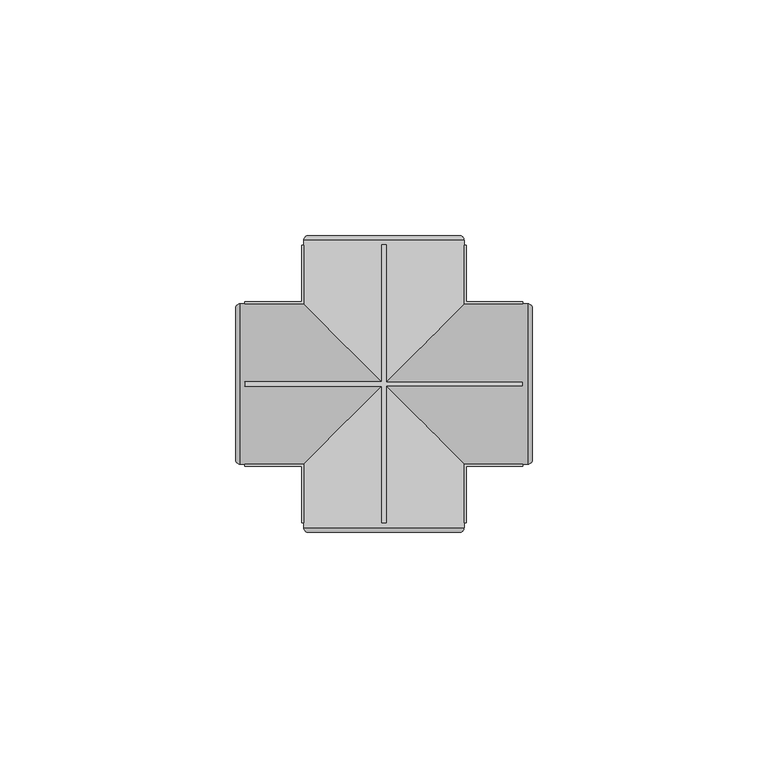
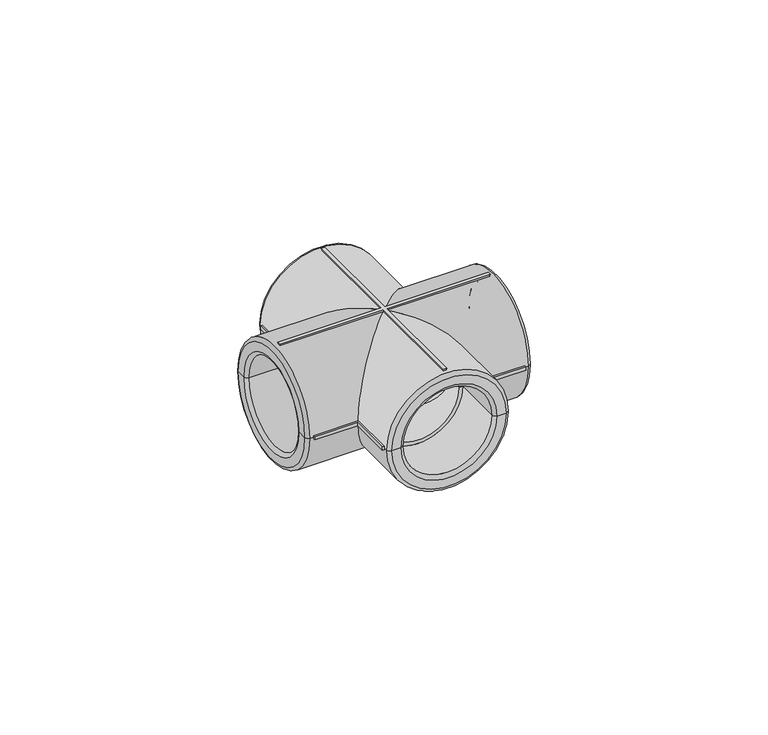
"""IFC4 building model written with IfcOpenShell, lengths in millimetres: pipe fitting geometry, EGB_VASEN_ PPR_Cruz WXR400 : EGB_VASEN_ PPR_Cruz WXR400."""

from ifc_helpers import new_model, si_unit, point, frame, origin, place, context, project, spatial, polyline, circle_curve, ellipse_curve, trimmed, source, transform, mapped, element, save
from ifc_brep_helpers import plane_surface, cylinder_surface, revolved_surface, advanced_brep


def pipe_fitting_9f84b60b(model_context):
    return source(origin(), model_context, "Body", "AdvancedBrep", [
        advanced_brep(
        [(-17.5, -29.5, 0.5), (-17.5, -29.5, -0.5), (-16.9926455, -29.5, -0.5), (-17.0, -29.5, 0.0), (-16.9926455, -29.5, 0.5), (17.5, -29.5, -0.5), (17.5, -29.5, 0.5), (16.9926455, -29.5, 0.5), (17.0, -29.5, 0.0), (16.9926455, -29.5, -0.5), (17.5, 29.5, 0.5), (17.5, 29.5, -0.5), (16.9926455, 29.5, -0.5), (17.0, 29.5, 0.0), (16.9926455, 29.5, 0.5), (-17.5, 29.5, -0.5), (-17.5, 29.5, 0.5), (-16.9926455, 29.5, 0.5), (-17.0, 29.5, 0.0), (-16.9926455, 29.5, -0.5), (17.5, -17.5, -0.5), (17.5, -17.5, 0.5), (17.5, 17.5, 0.5), (17.5, 17.5, -0.5), (16.9926455, -16.9926455, -0.5), (29.5, -16.9926455, -0.5), (29.5, -17.5, -0.5), (29.5, 17.5, -0.5), (29.5, 16.9926455, -0.5), (16.9926455, 16.9926455, -0.5), (-17.5, -17.5, -0.5), (-29.5, -17.5, -0.5), (-29.5, -16.9926455, -0.5), (-16.9926455, -16.9926455, -0.5), (-17.5, 17.5, -0.5), (-16.9926455, 16.9926455, -0.5), (-29.5, 16.9926455, -0.5), (-29.5, 17.5, -0.5), (-17.5, -17.5, 0.5), (-17.5, 17.5, 0.5), (29.5, -17.5, 0.5), (29.5, -16.9926455, 0.5), (16.9926455, -16.9926455, 0.5), (16.9926455, 16.9926455, 0.5), (29.5, 16.9926455, 0.5), (29.5, 17.5, 0.5), (-16.9926455, -16.9926455, 0.5), (-29.5, -16.9926455, 0.5), (-29.5, -17.5, 0.5), (-29.5, 17.5, 0.5), (-29.5, 16.9926455, 0.5), (-16.9926455, 16.9926455, 0.5), (29.5, -17.0, 0.0), (29.5, 17.0, 0.0), (-29.5, 17.0, 0.0), (-29.5, -17.0, 0.0), (-15.9999999, 31.5, 0.0), (-13.5, 31.5, 0.0), (13.5, 31.5, 0.0), (16.0, 31.5, 0.0), (17.0, -30.5000009, 0.0), (-17.0, -30.5, 0.0), (-0.5, -0.5, -16.9926455), (-0.5, -29.5, -16.9926455), (0.5, -29.5, -16.9926455), (0.5, -0.5, -16.9926455), (-17.0, 30.5, 0.0), (17.0, 30.5, 0.0), (0.5, 0.5, -16.9926455), (0.5, 29.5, -16.9926455), (-0.5, 29.5, -16.9926455), (-0.5, 0.5, -16.9926455), (0.5, -0.5, 16.9926455), (0.5, -29.5, 16.9926455), (-0.5, -29.5, 16.9926455), (-0.5, -0.5, 16.9926455), (-0.5, 0.5, 16.9926455), (-0.5, 29.5, 16.9926455), (0.5, 29.5, 16.9926455), (0.5, 0.5, 16.9926455), (16.0, -31.5, 0.0), (13.5, -31.5, 0.0), (-13.5, -31.5, 0.0), (-16.0, -31.5, 0.0), (30.5, 17.0, 0.0), (30.5, -17.0, 0.0), (29.5, -0.5, -16.9926455), (29.5, 0.5, -16.9926455), (-29.5, 0.5, -16.9926455), (-29.5, -0.5, -16.9926455), (-30.5000009, -17.0, 0.0), (-30.5, 17.0, 0.0), (29.5, 0.5, 16.9926455), (29.5, -0.5, 16.9926455), (-29.5, -0.5, 16.9926455), (-29.5, 0.5, 16.9926455), (-31.5, -16.0, 0.0), (-31.5, -13.5, 0.0), (-31.5, 13.5, 0.0), (-31.5, 16.0, 0.0), (31.5, 15.9999999, 0.0), (31.5, 13.5, 0.0), (31.5, -13.5, 0.0), (31.5, -16.0, 0.0), (29.5, 0.5, 17.5), (29.5, -0.5, 17.5), (29.5, -0.5, -17.5), (29.5, 0.5, -17.5), (-29.5, 0.5, -17.5), (-29.5, -0.5, -17.5), (-29.5, -0.5, 17.5), (-29.5, 0.5, 17.5), (0.5, 0.5, 17.5), (0.5, 29.5, 17.5), (-0.5, 29.5, 17.5), (-0.5, 0.5, 17.5), (-0.5, -0.5, 17.5), (-0.5, -29.5, 17.5), (0.5, -29.5, 17.5), (0.5, -0.5, 17.5), (0.5, -0.5, -17.5), (-0.5, -0.5, -17.5), (0.5, -29.5, -17.5), (-0.5, -29.5, -17.5), (-0.5, 0.5, -17.5), (-0.5, 29.5, -17.5), (0.5, 29.5, -17.5), (0.5, 0.5, -17.5), (12.5, -16.5, 0.0), (11.5, -16.5, 0.0), (-11.5, -16.5, 0.0), (-12.5, -16.5, 0.0), (-12.5, -30.5, 0.0), (12.5, -30.5, 0.0), (12.5, 30.5, 0.0), (-12.5, 30.5, 0.0), (-12.5, 16.5, 0.0), (12.5, 16.5, 0.0), (-11.5, 16.5, 0.0), (11.5, 16.5, 0.0), (11.5, -11.5, 0.0), (0.0, 0.0, -11.5), (-11.5, -11.5, 0.0), (-11.5, 11.5, 0.0), (11.5, 11.5, 0.0), (0.0, 0.0, 11.5), (30.5, -12.5, 0.0), (30.5, 12.5, 0.0), (16.5, 12.5, 0.0), (16.5, -12.5, 0.0), (16.5, 11.5, 0.0), (16.5, -11.5, 0.0), (-16.5, 11.5, 0.0), (-16.5, -11.5, 0.0), (-16.5, 12.5, 0.0), (-16.5, -12.5, 0.0), (-30.5, 12.5, 0.0), (-30.5, -12.5, 0.0)],
        [
            (0, 1),
            (1, 2),
            (2, 3, circle_curve(frame((0.0, -29.5, 0.0), z_axis=(0.0, 1.0, 0.0), x_axis=(-1.0, 0.0, 0.0)), 17.0)),
            (3, 4, circle_curve(frame((0.0, -29.5, 0.0), z_axis=(0.0, 1.0, 0.0), x_axis=(-1.0, 0.0, 0.0)), 17.0)),
            (4, 0),
            (5, 6),
            (6, 7),
            (7, 8, circle_curve(frame((0.0, -29.5, 0.0), z_axis=(0.0, 1.0, 0.0), x_axis=(-1.0, 0.0, 0.0)), 17.0)),
            (8, 9, circle_curve(frame((0.0, -29.5, 0.0), z_axis=(0.0, 1.0, 0.0), x_axis=(-1.0, 0.0, 0.0)), 17.0)),
            (9, 5),
            (10, 11),
            (11, 12),
            (12, 13, circle_curve(frame((0.0, 29.5, 0.0), z_axis=(0.0, -1.0, 0.0), x_axis=(-1.0, 0.0, 0.0)), 17.0)),
            (13, 14, circle_curve(frame((0.0, 29.5, 0.0), z_axis=(0.0, -1.0, 0.0), x_axis=(-1.0, 0.0, 0.0)), 17.0)),
            (14, 10),
            (15, 16),
            (16, 17),
            (17, 18, circle_curve(frame((0.0, 29.5, 0.0), z_axis=(0.0, -1.0, 0.0), x_axis=(-1.0, 0.0, 0.0)), 17.0)),
            (18, 19, circle_curve(frame((0.0, 29.5, 0.0), z_axis=(0.0, -1.0, 0.0), x_axis=(-1.0, 0.0, 0.0)), 17.0)),
            (19, 15),
            (5, 20),
            (20, 21),
            (21, 6),
            (10, 22),
            (22, 23),
            (23, 11),
            (9, 24),
            (24, 25),
            (25, 26),
            (26, 20),
            (23, 27),
            (27, 28),
            (28, 29),
            (29, 12),
            (1, 30),
            (30, 31),
            (31, 32),
            (32, 33),
            (33, 2),
            (34, 15),
            (19, 35),
            (35, 36),
            (36, 37),
            (37, 34),
            (0, 38),
            (38, 30),
            (34, 39),
            (39, 16),
            (21, 40),
            (40, 41),
            (41, 42),
            (42, 7),
            (14, 43),
            (43, 44),
            (44, 45),
            (45, 22),
            (4, 46),
            (46, 47),
            (47, 48),
            (48, 38),
            (39, 49),
            (49, 50),
            (50, 51),
            (51, 17),
            (40, 26),
            (25, 52, circle_curve(frame((29.5, 0.0, 0.0), z_axis=(-1.0, 0.0, 0.0), x_axis=(0.0, 1.0, 0.0)), 17.0)),
            (52, 41, circle_curve(frame((29.5, 0.0, 0.0), z_axis=(-1.0, 0.0, 0.0), x_axis=(0.0, 1.0, 0.0)), 17.0)),
            (27, 45),
            (44, 53, circle_curve(frame((29.5, 0.0, 0.0), z_axis=(-1.0, 0.0, 0.0), x_axis=(0.0, 1.0, 0.0)), 17.0)),
            (53, 28, circle_curve(frame((29.5, 0.0, 0.0), z_axis=(-1.0, 0.0, 0.0), x_axis=(0.0, 1.0, 0.0)), 17.0)),
            (49, 37),
            (36, 54, circle_curve(frame((-29.5, 0.0, 0.0), z_axis=(1.0, 0.0, 0.0), x_axis=(0.0, 1.0, 0.0)), 17.0)),
            (54, 50, circle_curve(frame((-29.5, 0.0, 0.0), z_axis=(1.0, 0.0, 0.0), x_axis=(0.0, 1.0, 0.0)), 17.0)),
            (31, 48),
            (47, 55, circle_curve(frame((-29.5, 0.0, 0.0), z_axis=(1.0, 0.0, 0.0), x_axis=(0.0, 1.0, 0.0)), 17.0)),
            (55, 32, circle_curve(frame((-29.5, 0.0, 0.0), z_axis=(1.0, 0.0, 0.0), x_axis=(0.0, 1.0, 0.0)), 17.0)),
            (56, 57),
            (57, 58, circle_curve(frame((0.0, 31.5, 0.0), z_axis=(0.0, -1.0, 0.0), x_axis=(-1.0, 0.0, 0.0)), 13.5)),
            (58, 59),
            (59, 56, circle_curve(frame((0.0, 31.5, 0.0), z_axis=(0.0, 1.0, 0.0), x_axis=(-1.0, 0.0, 0.0)), 16.0)),
            (56, 59, circle_curve(frame((0.0, 31.5, 0.0), z_axis=(0.0, 1.0, 0.0), x_axis=(-1.0, 0.0, 0.0)), 16.0)),
            (58, 57, circle_curve(frame((0.0, 31.5, 0.0), z_axis=(0.0, -1.0, 0.0), x_axis=(-1.0, 0.0, 0.0)), 13.5)),
            (8, 60),
            (60, 61, circle_curve(frame((0.0, -30.5, 0.0), z_axis=(0.0, 1.0, 0.0), x_axis=(-1.0, 0.0, 0.0)), 17.0)),
            (61, 3),
            (33, 62, ellipse_curve(frame((0.0, 0.0, 0.0), z_axis=(0.7071067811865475, -0.7071067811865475, 0.0), x_axis=(-0.7071067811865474, -0.7071067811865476, 0.0)), 24.0416306, 17.0)),
            (62, 63),
            (63, 64, circle_curve(frame((0.0, -29.5, 0.0), z_axis=(0.0, -1.0, 0.0), x_axis=(-1.0, 0.0, 0.0)), 17.0)),
            (64, 65),
            (65, 24, ellipse_curve(frame((0.0, 0.0, 0.0), z_axis=(-0.7071067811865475, -0.7071067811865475, 0.0), x_axis=(0.7071067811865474, -0.7071067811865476, 0.0)), 24.0416306, 17.0)),
            (18, 66),
            (66, 67, circle_curve(frame((0.0, 30.5, 0.0), z_axis=(0.0, -1.0, 0.0), x_axis=(-1.0, 0.0, 0.0)), 17.0)),
            (67, 13),
            (29, 68, ellipse_curve(frame((0.0, 0.0, 0.0), z_axis=(-0.7071067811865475, 0.7071067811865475, 0.0), x_axis=(-0.7071067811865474, -0.7071067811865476, 0.0)), 24.0416306, 17.0)),
            (68, 69),
            (69, 70, circle_curve(frame((0.0, 29.5, 0.0), z_axis=(0.0, 1.0, 0.0), x_axis=(-1.0, 0.0, 0.0)), 17.0)),
            (70, 71),
            (71, 35, ellipse_curve(frame((0.0, 0.0, 0.0), z_axis=(0.7071067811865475, 0.7071067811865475, 0.0), x_axis=(0.7071067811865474, -0.7071067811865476, 0.0)), 24.0416306, 17.0)),
            (61, 60, circle_curve(frame((0.0, -30.5, 0.0), z_axis=(0.0, 1.0, 0.0), x_axis=(-1.0, 0.0, 0.0)), 17.0)),
            (42, 72, ellipse_curve(frame((0.0, 0.0, 0.0), z_axis=(-0.7071067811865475, -0.7071067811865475, 0.0), x_axis=(0.7071067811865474, -0.7071067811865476, 0.0)), 24.0416306, 17.0)),
            (72, 73),
            (73, 74, circle_curve(frame((0.0, -29.5, 0.0), z_axis=(0.0, -1.0, 0.0), x_axis=(-1.0, 0.0, 0.0)), 17.0)),
            (74, 75),
            (75, 46, ellipse_curve(frame((0.0, 0.0, 0.0), z_axis=(0.7071067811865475, -0.7071067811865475, 0.0), x_axis=(-0.7071067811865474, -0.7071067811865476, 0.0)), 24.0416306, 17.0)),
            (67, 66, circle_curve(frame((0.0, 30.5, 0.0), z_axis=(0.0, -1.0, 0.0), x_axis=(-1.0, 0.0, 0.0)), 17.0)),
            (51, 76, ellipse_curve(frame((0.0, 0.0, 0.0), z_axis=(0.7071067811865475, 0.7071067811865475, 0.0), x_axis=(0.7071067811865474, -0.7071067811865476, 0.0)), 24.0416306, 17.0)),
            (76, 77),
            (77, 78, circle_curve(frame((0.0, 29.5, 0.0), z_axis=(0.0, 1.0, 0.0), x_axis=(-1.0, 0.0, 0.0)), 17.0)),
            (78, 79),
            (79, 43, ellipse_curve(frame((0.0, 0.0, 0.0), z_axis=(-0.7071067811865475, 0.7071067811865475, 0.0), x_axis=(-0.7071067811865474, -0.7071067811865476, 0.0)), 24.0416306, 17.0)),
            (80, 81),
            (81, 82, circle_curve(frame((0.0, -31.5, 0.0), z_axis=(0.0, 1.0, 0.0), x_axis=(-1.0, 0.0, 0.0)), 13.5)),
            (82, 83),
            (83, 80, circle_curve(frame((0.0, -31.5, 0.0), z_axis=(0.0, -1.0, 0.0), x_axis=(-1.0, 0.0, 0.0)), 16.0)),
            (80, 83, circle_curve(frame((0.0, -31.5, 0.0), z_axis=(0.0, -1.0, 0.0), x_axis=(-1.0, 0.0, 0.0)), 16.0)),
            (82, 81, circle_curve(frame((0.0, -31.5, 0.0), z_axis=(0.0, 1.0, 0.0), x_axis=(-1.0, 0.0, 0.0)), 13.5)),
            (53, 84),
            (84, 85, circle_curve(frame((30.5, 0.0, 0.0), z_axis=(-1.0, 0.0, 0.0), x_axis=(0.0, 1.0, 0.0)), 17.0)),
            (85, 52),
            (65, 86),
            (86, 87, circle_curve(frame((29.5, 0.0, 0.0), z_axis=(1.0, 0.0, 0.0), x_axis=(0.0, 1.0, 0.0)), 17.0)),
            (87, 68),
            (71, 88),
            (88, 89, circle_curve(frame((-29.5, 0.0, 0.0), z_axis=(-1.0, 0.0, 0.0), x_axis=(0.0, 1.0, 0.0)), 17.0)),
            (89, 62),
            (55, 90),
            (90, 91, circle_curve(frame((-30.5, 0.0, 0.0), z_axis=(1.0, 0.0, 0.0), x_axis=(0.0, 1.0, 0.0)), 17.0)),
            (91, 54),
            (79, 92),
            (92, 93, circle_curve(frame((29.5, 0.0, 0.0), z_axis=(1.0, 0.0, 0.0), x_axis=(0.0, 1.0, 0.0)), 17.0)),
            (93, 72),
            (85, 84, circle_curve(frame((30.5, 0.0, 0.0), z_axis=(-1.0, 0.0, 0.0), x_axis=(0.0, 1.0, 0.0)), 17.0)),
            (91, 90, circle_curve(frame((-30.5, 0.0, 0.0), z_axis=(1.0, 0.0, 0.0), x_axis=(0.0, 1.0, 0.0)), 17.0)),
            (75, 94),
            (94, 95, circle_curve(frame((-29.5, 0.0, 0.0), z_axis=(-1.0, 0.0, 0.0), x_axis=(0.0, 1.0, 0.0)), 17.0)),
            (95, 76),
            (96, 97),
            (97, 98, circle_curve(frame((-31.5, 0.0, 0.0), z_axis=(1.0, 0.0, 0.0), x_axis=(0.0, 1.0, 0.0)), 13.5)),
            (98, 99),
            (99, 96, circle_curve(frame((-31.5, 0.0, 0.0), z_axis=(-1.0, 0.0, 0.0), x_axis=(0.0, 1.0, 0.0)), 16.0)),
            (96, 99, circle_curve(frame((-31.5, 0.0, 0.0), z_axis=(-1.0, 0.0, 0.0), x_axis=(0.0, 1.0, 0.0)), 16.0)),
            (98, 97, circle_curve(frame((-31.5, 0.0, 0.0), z_axis=(1.0, 0.0, 0.0), x_axis=(0.0, 1.0, 0.0)), 13.5)),
            (100, 101),
            (101, 102, circle_curve(frame((31.5, 0.0, 0.0), z_axis=(-1.0, 0.0, 0.0), x_axis=(0.0, 1.0, 0.0)), 13.5)),
            (102, 103),
            (103, 100, circle_curve(frame((31.5, 0.0, 0.0), z_axis=(1.0, 0.0, 0.0), x_axis=(0.0, 1.0, 0.0)), 16.0)),
            (100, 103, circle_curve(frame((31.5, 0.0, 0.0), z_axis=(1.0, 0.0, 0.0), x_axis=(0.0, 1.0, 0.0)), 16.0)),
            (102, 101, circle_curve(frame((31.5, 0.0, 0.0), z_axis=(-1.0, 0.0, 0.0), x_axis=(0.0, 1.0, 0.0)), 13.5)),
            (104, 105),
            (105, 93),
            (92, 104),
            (106, 107),
            (107, 87),
            (86, 106),
            (108, 109),
            (109, 89),
            (88, 108),
            (110, 111),
            (111, 95),
            (94, 110),
            (104, 112),
            (112, 113),
            (113, 114),
            (114, 115),
            (115, 111),
            (110, 116),
            (116, 117),
            (117, 118),
            (118, 119),
            (119, 105),
            (119, 72),
            (65, 120),
            (120, 106),
            (109, 121),
            (121, 62),
            (75, 116),
            (120, 122),
            (122, 123),
            (123, 121),
            (108, 124),
            (124, 125),
            (125, 126),
            (126, 127),
            (127, 107),
            (79, 112),
            (127, 68),
            (71, 124),
            (115, 76),
            (117, 74),
            (73, 118),
            (122, 64),
            (63, 123),
            (113, 78),
            (77, 114),
            (125, 70),
            (69, 126),
            (128, 129),
            (129, 130, circle_curve(frame((0.0, -16.5, 0.0), z_axis=(0.0, 1.0, 0.0), x_axis=(-1.0, 0.0, 0.0)), 11.5)),
            (130, 131),
            (131, 128, circle_curve(frame((0.0, -16.5, 0.0), z_axis=(0.0, -1.0, 0.0), x_axis=(-1.0, 0.0, 0.0)), 12.5)),
            (128, 131, circle_curve(frame((0.0, -16.5, 0.0), z_axis=(0.0, -1.0, 0.0), x_axis=(-1.0, 0.0, 0.0)), 12.5)),
            (130, 129, circle_curve(frame((0.0, -16.5, 0.0), z_axis=(0.0, 1.0, 0.0), x_axis=(-1.0, 0.0, 0.0)), 11.5)),
            (131, 132),
            (132, 133, circle_curve(frame((0.0, -30.5, 0.0), z_axis=(0.0, -1.0, 0.0), x_axis=(-1.0, 0.0, 0.0)), 12.5)),
            (133, 128),
            (133, 132, circle_curve(frame((0.0, -30.5, 0.0), z_axis=(0.0, -1.0, 0.0), x_axis=(-1.0, 0.0, 0.0)), 12.5)),
            (132, 82, circle_curve(frame((-13.5, -30.5, 0.0), z_axis=(0.0, 0.0, -1.0), x_axis=(1.0, 0.0, 0.0)), 1.0)),
            (81, 133, circle_curve(frame((13.5, -30.5, 0.0), z_axis=(0.0, 0.0, -1.0), x_axis=(-1.0, 0.0, 0.0)), 1.0)),
            (134, 58, circle_curve(frame((13.5, 30.5, 0.0), z_axis=(0.0, 0.0, -1.0), x_axis=(-1.0, 0.0, 0.0)), 1.0)),
            (57, 135, circle_curve(frame((-13.5, 30.5, 0.0), z_axis=(0.0, 0.0, -1.0), x_axis=(1.0, 0.0, 0.0)), 1.0)),
            (135, 134, circle_curve(frame((0.0, 30.5, 0.0), z_axis=(0.0, -1.0, 0.0), x_axis=(-1.0, 0.0, 0.0)), 12.5)),
            (134, 135, circle_curve(frame((0.0, 30.5, 0.0), z_axis=(0.0, -1.0, 0.0), x_axis=(-1.0, 0.0, 0.0)), 12.5)),
            (135, 136),
            (136, 137, circle_curve(frame((0.0, 16.5, 0.0), z_axis=(0.0, -1.0, 0.0), x_axis=(-1.0, 0.0, 0.0)), 12.5)),
            (137, 134),
            (137, 136, circle_curve(frame((0.0, 16.5, 0.0), z_axis=(0.0, -1.0, 0.0), x_axis=(-1.0, 0.0, 0.0)), 12.5)),
            (136, 138),
            (138, 139, circle_curve(frame((0.0, 16.5, 0.0), z_axis=(0.0, -1.0, 0.0), x_axis=(-1.0, 0.0, 0.0)), 11.5)),
            (139, 137),
            (139, 138, circle_curve(frame((0.0, 16.5, 0.0), z_axis=(0.0, -1.0, 0.0), x_axis=(-1.0, 0.0, 0.0)), 11.5)),
            (129, 140),
            (140, 141, ellipse_curve(frame((0.0, 0.0, 0.0), z_axis=(0.7071067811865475, 0.7071067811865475, 0.0), x_axis=(0.7071067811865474, -0.7071067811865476, 0.0)), 16.263456, 11.5)),
            (141, 142, ellipse_curve(frame((0.0, 0.0, 0.0), z_axis=(-0.7071067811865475, 0.7071067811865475, 0.0), x_axis=(-0.7071067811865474, -0.7071067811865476, 0.0)), 16.263456, 11.5)),
            (142, 130),
            (138, 143),
            (143, 141, ellipse_curve(frame((0.0, 0.0, 0.0), z_axis=(-0.7071067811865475, -0.7071067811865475, 0.0), x_axis=(0.7071067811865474, -0.7071067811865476, 0.0)), 16.263456, 11.5)),
            (141, 144, ellipse_curve(frame((0.0, 0.0, 0.0), z_axis=(0.7071067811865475, -0.7071067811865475, 0.0), x_axis=(-0.7071067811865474, -0.7071067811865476, 0.0)), 16.263456, 11.5)),
            (144, 139),
            (142, 145, ellipse_curve(frame((0.0, 0.0, 0.0), z_axis=(-0.7071067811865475, 0.7071067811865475, 0.0), x_axis=(-0.7071067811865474, -0.7071067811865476, 0.0)), 16.263456, 11.5)),
            (145, 140, ellipse_curve(frame((0.0, 0.0, 0.0), z_axis=(0.7071067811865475, 0.7071067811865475, 0.0), x_axis=(0.7071067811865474, -0.7071067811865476, 0.0)), 16.263456, 11.5)),
            (144, 145, ellipse_curve(frame((0.0, 0.0, 0.0), z_axis=(0.7071067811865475, -0.7071067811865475, 0.0), x_axis=(-0.7071067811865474, -0.7071067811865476, 0.0)), 16.263456, 11.5)),
            (145, 143, ellipse_curve(frame((0.0, 0.0, 0.0), z_axis=(-0.7071067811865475, -0.7071067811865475, 0.0), x_axis=(0.7071067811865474, -0.7071067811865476, 0.0)), 16.263456, 11.5)),
            (59, 67, circle_curve(frame((16.0, 30.5, 0.0), z_axis=(0.0, 0.0, -1.0), x_axis=(-1.0, 0.0, 0.0)), 1.0)),
            (66, 56, circle_curve(frame((-16.0, 30.5, 0.0), z_axis=(0.0, 0.0, -1.0), x_axis=(1.0, 0.0, 0.0)), 1.0)),
            (60, 80, circle_curve(frame((16.0, -30.5, 0.0), z_axis=(0.0, 0.0, -1.0), x_axis=(-1.0, 0.0, 0.0)), 1.0)),
            (83, 61, circle_curve(frame((-16.0, -30.5, 0.0), z_axis=(0.0, 0.0, -1.0), x_axis=(1.0, 0.0, 0.0)), 1.0)),
            (103, 85, circle_curve(frame((30.5, -16.0, 0.0), z_axis=(0.0, 0.0, -1.0), x_axis=(1.0, 0.0, 0.0)), 1.0)),
            (84, 100, circle_curve(frame((30.5, 16.0, 0.0), z_axis=(0.0, 0.0, -1.0), x_axis=(1.0, 0.0, 0.0)), 1.0)),
            (146, 102, circle_curve(frame((30.5, -13.5, 0.0), z_axis=(0.0, 0.0, -1.0), x_axis=(1.0, 0.0, 0.0)), 1.0)),
            (101, 147, circle_curve(frame((30.5, 13.5, 0.0), z_axis=(0.0, 0.0, -1.0), x_axis=(1.0, 0.0, 0.0)), 1.0)),
            (147, 146, circle_curve(frame((30.5, 0.0, 0.0), z_axis=(-1.0, 0.0, 0.0), x_axis=(0.0, 1.0, 0.0)), 12.5)),
            (146, 147, circle_curve(frame((30.5, 0.0, 0.0), z_axis=(-1.0, 0.0, 0.0), x_axis=(0.0, 1.0, 0.0)), 12.5)),
            (147, 148),
            (148, 149, circle_curve(frame((16.5, 0.0, 0.0), z_axis=(-1.0, 0.0, 0.0), x_axis=(0.0, 1.0, 0.0)), 12.5)),
            (149, 146),
            (149, 148, circle_curve(frame((16.5, 0.0, 0.0), z_axis=(-1.0, 0.0, 0.0), x_axis=(0.0, 1.0, 0.0)), 12.5)),
            (148, 150),
            (150, 151, circle_curve(frame((16.5, 0.0, 0.0), z_axis=(-1.0, 0.0, 0.0), x_axis=(0.0, 1.0, 0.0)), 11.5)),
            (151, 149),
            (151, 150, circle_curve(frame((16.5, 0.0, 0.0), z_axis=(-1.0, 0.0, 0.0), x_axis=(0.0, 1.0, 0.0)), 11.5)),
            (150, 144),
            (140, 151),
            (152, 153, circle_curve(frame((-16.5, 0.0, 0.0), z_axis=(-1.0, 0.0, 0.0), x_axis=(0.0, 1.0, 0.0)), 11.5)),
            (153, 142),
            (143, 152),
            (153, 152, circle_curve(frame((-16.5, 0.0, 0.0), z_axis=(-1.0, 0.0, 0.0), x_axis=(0.0, 1.0, 0.0)), 11.5)),
            (152, 154),
            (154, 155, circle_curve(frame((-16.5, 0.0, 0.0), z_axis=(-1.0, 0.0, 0.0), x_axis=(0.0, 1.0, 0.0)), 12.5)),
            (155, 153),
            (155, 154, circle_curve(frame((-16.5, 0.0, 0.0), z_axis=(-1.0, 0.0, 0.0), x_axis=(0.0, 1.0, 0.0)), 12.5)),
            (154, 156),
            (156, 157, circle_curve(frame((-30.5, 0.0, 0.0), z_axis=(-1.0, 0.0, 0.0), x_axis=(0.0, 1.0, 0.0)), 12.5)),
            (157, 155),
            (157, 156, circle_curve(frame((-30.5, 0.0, 0.0), z_axis=(-1.0, 0.0, 0.0), x_axis=(0.0, 1.0, 0.0)), 12.5)),
            (156, 98, circle_curve(frame((-30.5, 13.5, 0.0), z_axis=(0.0, 0.0, -1.0), x_axis=(1.0, 0.0, 0.0)), 1.0)),
            (97, 157, circle_curve(frame((-30.5, -13.5, 0.0), z_axis=(0.0, 0.0, -1.0), x_axis=(1.0, 0.0, 0.0)), 1.0)),
            (90, 96, circle_curve(frame((-30.5, -16.0, 0.0), z_axis=(0.0, 0.0, -1.0), x_axis=(1.0, 0.0, 0.0)), 1.0)),
            (99, 91, circle_curve(frame((-30.5, 16.0, 0.0), z_axis=(0.0, 0.0, -1.0), x_axis=(1.0, 0.0, 0.0)), 1.0)),
        ],
        [
            plane_surface(frame((17.5, -29.5, 0.5), z_axis=(0.0, -1.0, 0.0), x_axis=(0.0, 0.0, 1.0))),
            plane_surface(frame((17.5, 29.5, 0.5), z_axis=(0.0, 1.0, 0.0), x_axis=(0.0, 0.0, -1.0))),
            plane_surface(frame((17.5, 29.5, 0.5), z_axis=(1.0, 0.0, 0.0), x_axis=(0.0, -1.0, 0.0))),
            plane_surface(frame((17.5, 29.5, -0.5), z_axis=(0.0, 0.0, -1.0), x_axis=(0.0, -1.0, 0.0))),
            plane_surface(frame((-17.5, 29.5, -0.5), z_axis=(-1.0, 0.0, 0.0), x_axis=(0.0, -1.0, 0.0))),
            plane_surface(frame((-17.5, 29.5, 0.5), z_axis=(0.0, 0.0, 1.0), x_axis=(0.0, -1.0, 0.0))),
            plane_surface(frame((29.5, -17.5, 0.5), z_axis=(1.0, 0.0, 0.0), x_axis=(0.0, -1.0, 0.0))),
            plane_surface(frame((-29.5, -17.5, 0.5), z_axis=(-1.0, 0.0, 0.0), x_axis=(0.0, 1.0, 0.0))),
            plane_surface(frame((29.5, -17.5, 0.5), z_axis=(0.0, -1.0, 0.0), x_axis=(-1.0, 0.0, 0.0))),
            plane_surface(frame((29.5, 17.5, -0.5), z_axis=(0.0, 1.0, 0.0), x_axis=(-1.0, 0.0, 0.0))),
            plane_surface(frame((0.0, 31.5, 0.0), z_axis=(0.0, 1.0, 0.0), x_axis=(-1.0, 0.0, 0.0))),
            cylinder_surface(frame((0.0, 2004.5, 0.0), z_axis=(0.0, -1.0, 0.0), x_axis=(-1.0, 0.0, 0.0)), 17.0),
            plane_surface(frame((0.0, -31.5, 0.0), z_axis=(0.0, -1.0, 0.0), x_axis=(-1.0, 0.0, 0.0))),
            cylinder_surface(frame((2004.5, 0.0, 0.0), z_axis=(-1.0, 0.0, 0.0), x_axis=(0.0, 1.0, 0.0)), 17.0),
            plane_surface(frame((-31.5, 0.0, 0.0), z_axis=(-1.0, 0.0, 0.0), x_axis=(0.0, 1.0, 0.0))),
            plane_surface(frame((31.5, 0.0, 0.0), z_axis=(1.0, 0.0, 0.0), x_axis=(0.0, 1.0, 0.0))),
            plane_surface(frame((29.5, -0.5, 17.5), z_axis=(1.0, 0.0, 0.0), x_axis=(0.0, -1.0, 0.0))),
            plane_surface(frame((-29.5, -0.5, 17.5), z_axis=(-1.0, 0.0, 0.0), x_axis=(0.0, 1.0, 0.0))),
            plane_surface(frame((29.5, 0.5, 17.5), z_axis=(0.0, 0.0, 1.0), x_axis=(-1.0, 0.0, 0.0))),
            plane_surface(frame((29.5, -0.5, 17.5), z_axis=(0.0, -1.0, 0.0), x_axis=(-1.0, 0.0, 0.0))),
            plane_surface(frame((29.5, -0.5, -17.5), z_axis=(0.0, 0.0, -1.0), x_axis=(-1.0, 0.0, 0.0))),
            plane_surface(frame((29.5, 0.5, -17.5), z_axis=(0.0, 1.0, 0.0), x_axis=(-1.0, 0.0, 0.0))),
            plane_surface(frame((0.5, -29.5, 17.5), z_axis=(0.0, -1.0, 0.0), x_axis=(0.0, 0.0, 1.0))),
            plane_surface(frame((0.5, 29.5, 17.5), z_axis=(0.0, 1.0, 0.0), x_axis=(0.0, 0.0, -1.0))),
            plane_surface(frame((0.5, 29.5, 17.5), z_axis=(1.0, 0.0, 0.0), x_axis=(0.0, -1.0, 0.0))),
            plane_surface(frame((-0.5, 29.5, -17.5), z_axis=(-1.0, 0.0, 0.0), x_axis=(0.0, -1.0, 0.0))),
            plane_surface(frame((0.0, -16.5, 0.0), z_axis=(0.0, -1.0, 0.0), x_axis=(-1.0, 0.0, 0.0))),
            revolved_surface(polyline([(-12.5, -30.5, 0.0), (-12.5, -16.5, 0.0)]), (0.0, 2004.5, 0.0), (0.0, -1.0, 0.0)),
            revolved_surface(trimmed(ellipse_curve(frame((-13.5, -30.5, 0.0), z_axis=(0.0, 0.0, 1.0), x_axis=(1.0, 0.0, 0.0)), 1.0, 1.0), [point((-13.5, -31.5, 0.0))], [point((-12.5, -30.5, 0.0))], True, "CARTESIAN"), (0.0, 2004.5, 0.0), (0.0, -1.0, 0.0)),
            revolved_surface(trimmed(ellipse_curve(frame((-13.5, 30.5, 0.0), z_axis=(0.0, 0.0, 1.0), x_axis=(1.0, 0.0, 0.0)), 1.0, 1.0), [point((-12.5, 30.5, 0.0))], [point((-13.5, 31.5, 0.0))], True, "CARTESIAN"), (0.0, 2004.5, 0.0), (0.0, -1.0, 0.0)),
            revolved_surface(polyline([(-12.5, 16.5, 0.0), (-12.5, 30.5, 0.0)]), (0.0, 2004.5, 0.0), (0.0, -1.0, 0.0)),
            plane_surface(frame((0.0, 16.5, 0.0), z_axis=(0.0, 1.0, 0.0), x_axis=(-1.0, 0.0, 0.0))),
            revolved_surface(polyline([(-11.5, -16.5, 0.0), (-11.5, 11.500000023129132, 0.0)]), (0.0, 2004.5, 0.0), (0.0, -1.0, 0.0)),
            revolved_surface(polyline([(-11.5, -11.500000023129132, 0.0), (-11.5, 16.5, 0.0)]), (0.0, 2004.5, 0.0), (0.0, -1.0, 0.0)),
            revolved_surface(trimmed(ellipse_curve(frame((-16.0, 30.5, 0.0), z_axis=(0.0, 0.0, 1.0), x_axis=(1.0, 0.0, 0.0)), 1.0, 1.0), [point((-16.0, 31.5, 0.0))], [point((-17.0, 30.5, 0.0))], True, "CARTESIAN"), (0.0, 2004.5, 0.0), (0.0, -1.0, 0.0)),
            revolved_surface(trimmed(ellipse_curve(frame((-16.0, -30.5, 0.0), z_axis=(0.0, 0.0, 1.0), x_axis=(1.0, 0.0, 0.0)), 1.0, 1.0), [point((-17.0, -30.5, 0.0))], [point((-16.0, -31.5, 0.0))], True, "CARTESIAN"), (0.0, 2004.5, 0.0), (0.0, -1.0, 0.0)),
            revolved_surface(trimmed(ellipse_curve(frame((30.5, 16.0, 0.0), z_axis=(0.0, 0.0, 1.0), x_axis=(1.0, 0.0, 0.0)), 1.0, 1.0), [point((31.5, 16.0, 0.0))], [point((30.5, 17.0, 0.0))], True, "CARTESIAN"), (2004.5, 0.0, 0.0), (-1.0, 0.0, 0.0)),
            revolved_surface(trimmed(ellipse_curve(frame((30.5, 13.5, 0.0), z_axis=(0.0, 0.0, 1.0), x_axis=(1.0, 0.0, 0.0)), 1.0, 1.0), [point((30.5, 12.5, 0.0))], [point((31.5, 13.5, 0.0))], True, "CARTESIAN"), (2004.5, 0.0, 0.0), (-1.0, 0.0, 0.0)),
            revolved_surface(polyline([(16.5, 12.5, 0.0), (30.5, 12.5, 0.0)]), (2004.5, 0.0, 0.0), (-1.0, 0.0, 0.0)),
            plane_surface(frame((16.5, 0.0, 0.0), z_axis=(1.0, 0.0, 0.0), x_axis=(0.0, 1.0, 0.0))),
            revolved_surface(polyline([(-11.500000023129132, 11.5, 0.0), (16.5, 11.5, 0.0)]), (2004.5, 0.0, 0.0), (-1.0, 0.0, 0.0)),
            revolved_surface(polyline([(-16.5, 11.5, 0.0), (11.500000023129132, 11.5, 0.0)]), (2004.5, 0.0, 0.0), (-1.0, 0.0, 0.0)),
            plane_surface(frame((-16.5, 0.0, 0.0), z_axis=(-1.0, 0.0, 0.0), x_axis=(0.0, 1.0, 0.0))),
            revolved_surface(polyline([(-30.5, 12.5, 0.0), (-16.5, 12.5, 0.0)]), (2004.5, 0.0, 0.0), (-1.0, 0.0, 0.0)),
            revolved_surface(trimmed(ellipse_curve(frame((-30.5, 13.5, 0.0), z_axis=(0.0, 0.0, 1.0), x_axis=(1.0, 0.0, 0.0)), 1.0, 1.0), [point((-31.5, 13.5, 0.0))], [point((-30.5, 12.5, 0.0))], True, "CARTESIAN"), (2004.5, 0.0, 0.0), (-1.0, 0.0, 0.0)),
            revolved_surface(trimmed(ellipse_curve(frame((-30.5, 16.0, 0.0), z_axis=(0.0, 0.0, 1.0), x_axis=(1.0, 0.0, 0.0)), 1.0, 1.0), [point((-30.5, 17.0, 0.0))], [point((-31.5, 16.0, 0.0))], True, "CARTESIAN"), (2004.5, 0.0, 0.0), (-1.0, 0.0, 0.0)),
        ],
        [
            (0, [[1, 2, 3, 4, 5]]),
            (0, [[6, 7, 8, 9, 10]]),
            (1, [[11, 12, 13, 14, 15]]),
            (1, [[16, 17, 18, 19, 20]]),
            (2, [[-6, 21, 22, 23]]),
            (2, [[-11, 24, 25, 26]]),
            (3, [[-21, -10, 27, 28, 29, 30]]),
            (3, [[-26, 31, 32, 33, 34, -12]]),
            (3, [[35, 36, 37, 38, 39, -2]]),
            (3, [[40, -20, 41, 42, 43, 44]]),
            (4, [[-1, 45, 46, -35]]),
            (4, [[-16, -40, 47, 48]]),
            (5, [[-23, 49, 50, 51, 52, -7]]),
            (5, [[-24, -15, 53, 54, 55, 56]]),
            (5, [[-45, -5, 57, 58, 59, 60]]),
            (5, [[-48, 61, 62, 63, 64, -17]]),
            (6, [[65, -29, 66, 67, -50]]),
            (6, [[68, -55, 69, 70, -32]]),
            (7, [[71, -43, 72, 73, -62]]),
            (7, [[74, -59, 75, 76, -37]]),
            (8, [[-65, -49, -22, -30]]),
            (8, [[-74, -36, -46, -60]]),
            (9, [[-68, -31, -25, -56]]),
            (9, [[-71, -61, -47, -44]]),
            (10, [[77, 78, 79, 80]]),
            (10, [[-77, 81, -79, 82]]),
            (11, [[-9, 83, 84, 85, -3, -39, 86, 87, 88, 89, 90, -27]]),
            (11, [[-19, 91, 92, 93, -13, -34, 94, 95, 96, 97, 98, -41]]),
            (11, [[-4, -85, 99, -83, -8, -52, 100, 101, 102, 103, 104, -57]]),
            (11, [[-14, -93, 105, -91, -18, -64, 106, 107, 108, 109, 110, -53]]),
            (12, [[111, 112, 113, 114]]),
            (12, [[-111, 115, -113, 116]]),
            (13, [[-33, -70, 117, 118, 119, -66, -28, -90, 120, 121, 122, -94]]),
            (13, [[-42, -98, 123, 124, 125, -86, -38, -76, 126, 127, 128, -72]]),
            (13, [[-54, -110, 129, 130, 131, -100, -51, -67, -119, 132, -117, -69]]),
            (13, [[-63, -73, -128, 133, -126, -75, -58, -104, 134, 135, 136, -106]]),
            (14, [[137, 138, 139, 140]]),
            (14, [[-137, 141, -139, 142]]),
            (15, [[143, 144, 145, 146]]),
            (15, [[-143, 147, -145, 148]]),
            (16, [[149, 150, -130, 151]]),
            (16, [[152, 153, -121, 154]]),
            (17, [[155, 156, -124, 157]]),
            (17, [[158, 159, -135, 160]]),
            (18, [[-149, 161, 162, 163, 164, 165, -158, 166, 167, 168, 169, 170]]),
            (19, [[-150, -170, 171, -131]]),
            (19, [[-154, -120, 172, 173]]),
            (19, [[-156, 174, 175, -125]]),
            (19, [[-160, -134, 176, -166]]),
            (20, [[-152, -173, 177, 178, 179, -174, -155, 180, 181, 182, 183, 184]]),
            (21, [[-151, -129, 185, -161]]),
            (21, [[-153, -184, 186, -122]]),
            (21, [[-157, -123, 187, -180]]),
            (21, [[-159, -165, 188, -136]]),
            (22, [[-168, 189, -102, 190]]),
            (22, [[-178, 191, -88, 192]]),
            (23, [[-163, 193, -108, 194]]),
            (23, [[-182, 195, -96, 196]]),
            (24, [[-162, -185, -109, -193]]),
            (24, [[-169, -190, -101, -171]]),
            (24, [[-177, -172, -89, -191]]),
            (24, [[-183, -196, -95, -186]]),
            (25, [[-164, -194, -107, -188]]),
            (25, [[-167, -176, -103, -189]]),
            (25, [[-179, -192, -87, -175]]),
            (25, [[-181, -187, -97, -195]]),
            (26, [[197, 198, 199, 200]]),
            (26, [[-197, 201, -199, 202]]),
            (27, [[-200, 203, 204, 205]]),
            (27, [[-201, -205, 206, -203]]),
            (28, [[-204, 207, -112, 208]]),
            (28, [[-206, -208, -116, -207]]),
            (29, [[209, -78, 210, 211]]),
            (29, [[-209, 212, -210, -82]]),
            (30, [[-211, 213, 214, 215]]),
            (30, [[-212, -215, 216, -213]]),
            (31, [[-214, 217, 218, 219]]),
            (31, [[-216, -219, 220, -217]]),
            (32, [[-198, 221, 222, 223, 224]]),
            (33, [[-218, 225, 226, 227, 228]]),
            (32, [[-202, -224, 229, 230, -221]]),
            (33, [[-220, -228, 231, 232, -225]]),
            (34, [[233, -92, 234, -80]]),
            (34, [[-233, -81, -234, -105]]),
            (35, [[235, -114, 236, -84]]),
            (35, [[-235, -99, -236, -115]]),
            (36, [[237, -118, 238, -146]]),
            (36, [[-237, -147, -238, -132]]),
            (37, [[239, -144, 240, 241]]),
            (37, [[-239, 242, -240, -148]]),
            (38, [[-241, 243, 244, 245]]),
            (38, [[-242, -245, 246, -243]]),
            (39, [[-244, 247, 248, 249]]),
            (39, [[-246, -249, 250, -247]]),
            (40, [[-248, 251, -227, -222, 252]]),
            (41, [[253, 254, -223, -226, 255]]),
            (40, [[-250, -252, -230, -231, -251]]),
            (41, [[256, -255, -232, -229, -254]]),
            (42, [[-253, 257, 258, 259]]),
            (42, [[-256, -259, 260, -257]]),
            (43, [[-258, 261, 262, 263]]),
            (43, [[-260, -263, 264, -261]]),
            (44, [[-262, 265, -138, 266]]),
            (44, [[-264, -266, -142, -265]]),
            (45, [[267, -140, 268, -127]]),
            (45, [[-267, -133, -268, -141]]),
        ],
    ),
    ])


if __name__ == "__main__":
    model = new_model("IFC4")
    model_context = context("Model", 3, world=origin())
    ifc_project = project(units=[si_unit("LENGTHUNIT", "METRE", prefix="MILLI")], contexts=[model_context])
    site = spatial("IfcSite", under=ifc_project)
    building = spatial("IfcBuilding", under=site)
    placement = place(None, origin())
    pipe_fitting_shape = pipe_fitting_9f84b60b(model_context)
    element("IfcPipeFitting", 1, ObjectType="EGB_VASEN_ PPR_Cruz WXR400 : EGB_VASEN_ PPR_Cruz WXR400", at=placement, inside=building, context=model_context, shape_type="MappedRepresentation", body=[
        mapped(pipe_fitting_shape, transform((0.0, 0.0, 0.0), x_axis=(1.0, 0.0, 0.0), y_axis=(0.0, 1.0, 0.0), z_axis=(0.0, 0.0, 1.0))),
    ])
    save(model, "model.ifc")
